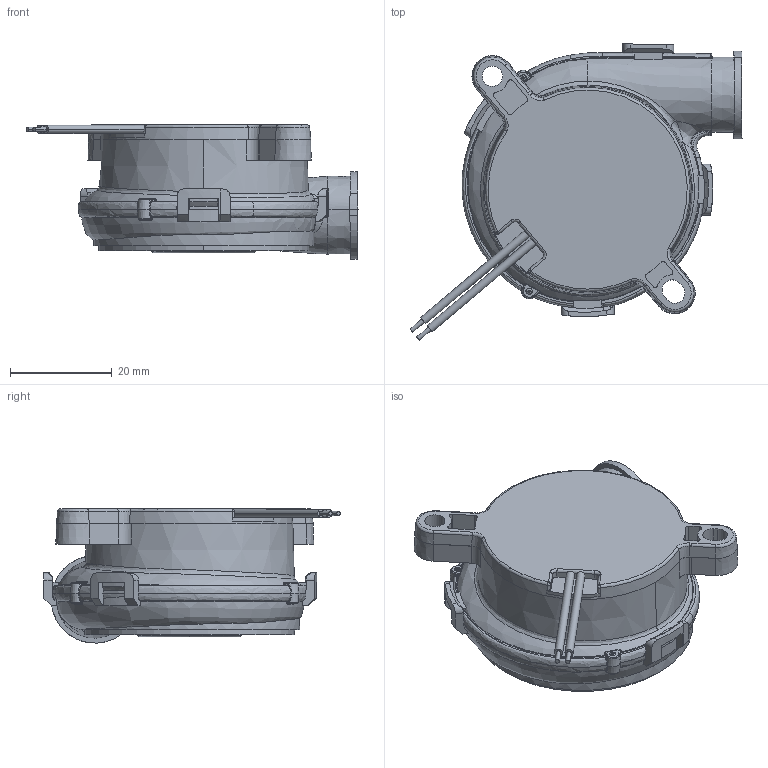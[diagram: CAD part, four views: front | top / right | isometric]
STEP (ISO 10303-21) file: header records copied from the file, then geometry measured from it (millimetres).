
FILE_DESCRIPTION((''),'2;1');
FILE_NAME('5025-ALL_ASM','2026-07-22T11:01:14',('pc'),(''),'CREO PARAMETRIC BY PTC INC, 2018050','CREO PARAMETRIC BY PTC INC, 2018050','');
FILE_SCHEMA(('CONFIG_CONTROL_DESIGN','GEOMETRIC_VALIDATION_PROPERTIES_MIM'));
Length unit declared in the file: millimetre
Products named in the file (3): 5025-A-00; _3-1000; 5025-ALL_ASM
Assembly tree (2 placements, depth 2):
  5025-ALL_ASM
    5025-A-00
    _3-1000
Bounding box: 65.4 x 58.38 x 26.42 mm (x, y, z)
Volume: 39271.6 mm3; surface area: 14541.7 mm2
Topology: 2 solids, 2 shells, 585 faces, 1631 edges, 1034 vertices
Faces by surface type: plane 197, bspline 196, cylinder 80, extrusion 54, cone 27, torus 17, revolution 8, sphere 6
Entity records: 42431 total; most frequent: CARTESIAN_POINT 27049, ORIENTED_EDGE 3242, DIRECTION 1725, EDGE_CURVE 1621, VERTEX_POINT 1034, B_SPLINE_CURVE_WITH_KNOTS 922, PRESENTATION_STYLE_ASSIGNMENT 774, STYLED_ITEM 774
